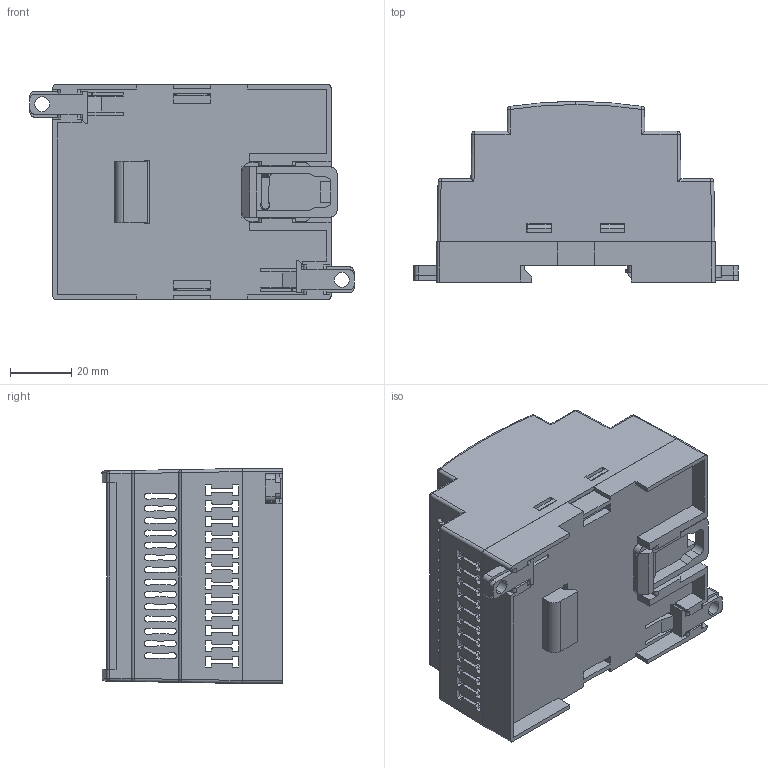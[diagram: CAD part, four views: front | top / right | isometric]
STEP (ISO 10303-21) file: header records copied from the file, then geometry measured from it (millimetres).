
FILE_DESCRIPTION (( 'STEP AP203' ), '1' );
FILE_NAME ('PT204-D.STEP', '2020-04-09T11:22:59', ( '' ), ( '' ), 'SwSTEP 2.0', 'SolidWorks 2020', '' );
FILE_SCHEMA (( 'CONFIG_CONTROL_DESIGN' ));
Length unit declared in the file: millimetre
Products named in the file (7): PT204-D
Assembly tree (7 placements, depth 2):
  PT204-D
    PT204-D
    PT204-D
    PT204-D  x2
    PT204-D
    PT204-D
    PT204-D
Bounding box: 105.52 x 58.8 x 70.2 mm (x, y, z)
Volume: 64173.2 mm3; surface area: 75208.4 mm2
Topology: 7 solids, 7 shells, 1215 faces, 3551 edges, 2342 vertices
Faces by surface type: plane 679, cylinder 521, sphere 12, bspline 3
Entity records: 40044 total; most frequent: CARTESIAN_POINT 9198, ORIENTED_EDGE 6966, DIRECTION 5474, EDGE_CURVE 3483, LINE 2442, VECTOR 2442, VERTEX_POINT 2302, AXIS2_PLACEMENT_3D 1516
